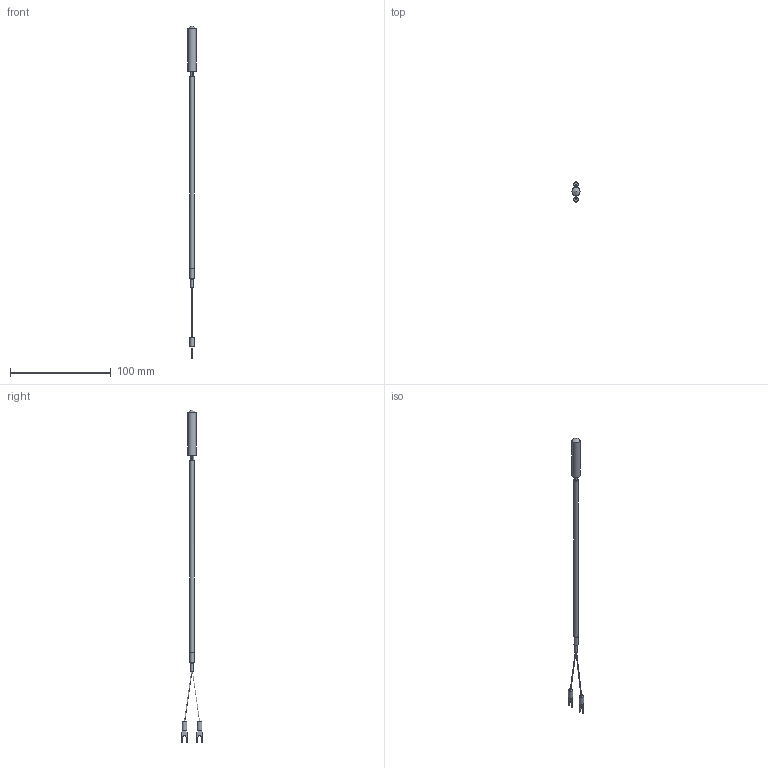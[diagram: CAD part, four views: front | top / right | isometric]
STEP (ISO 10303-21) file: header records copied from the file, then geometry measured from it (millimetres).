
FILE_DESCRIPTION (( 'STEP AP203' ), '1' );
FILE_NAME ('YIT102-7(0).STEP', '2024-03-26T06:21:35', ( '' ), ( '' ), 'SwSTEP 2.0', 'SolidWorks 2021', '' );
FILE_SCHEMA (( 'CONFIG_CONTROL_DESIGN' ));
Length unit declared in the file: millimetre
Products named in the file (1): YIT102-7(0)
Bounding box: 8 x 20.85 x 329 mm (x, y, z)
Volume: 5185.7 mm3; surface area: 4599.9 mm2
Topology: 1 solids, 1 shells, 70 faces, 158 edges, 96 vertices
Faces by surface type: plane 44, cylinder 20, cone 4, bspline 2
Full cylindrical faces by diameter (mm): 2.36 x1, 4 x1, 4.2 x1, 4.5 x2, 8 x1
Entity records: 1933 total; most frequent: DIRECTION 336, CARTESIAN_POINT 331, ORIENTED_EDGE 284, EDGE_CURVE 142, AXIS2_PLACEMENT_3D 125, VERTEX_POINT 92, EDGE_LOOP 88, VECTOR 86
